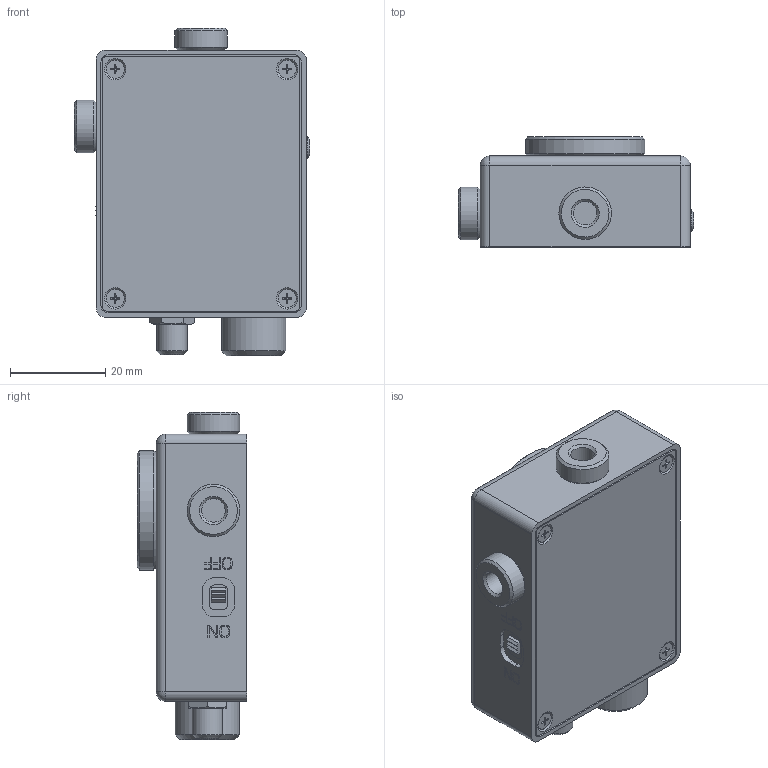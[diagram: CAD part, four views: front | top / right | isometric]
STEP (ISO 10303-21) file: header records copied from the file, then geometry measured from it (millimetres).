
FILE_DESCRIPTION(/* description */ (''),/* implementation_level */ '2;1');
FILE_NAME(/* name */ 'Y:\IvDoronin\Фотоприемники\- Модели -\1. Фотоприемники в фотодиодном режиме\OD2.0001-01 МС Фотоприемник_Shrinkwrap OD-03B.stp',/* time_stamp */ '2019-08-05T10:53:22+03:00',/* author */ ('svlad'),/* organization */ (''),/* preprocessor_version */ 'ST-DEVELOPER v17',/* originating_system */ 'Autodesk Inventor 2019',/* authorisation */ '');
FILE_SCHEMA (('AUTOMOTIVE_DESIGN { 1 0 10303 214 3 1 1 }'));
Products named in the file (1): OD2.0001-01 МС Фотоприемник_
Shrinkwrap OD-03B
Bounding box: 49.24 x 23 x 68.54 mm (x, y, z)
Volume: 49181 mm3; surface area: 10984.6 mm2
Topology: 1 solids, 1 shells, 1295 faces, 3572 edges, 2384 vertices
Faces by surface type: plane 737, bspline 389, cylinder 95, cone 52, torus 18, sphere 4
Full cylindrical faces by diameter (mm): 3 x1, 3.8 x4, 4.5 x1, 4.55 x1, 4.75 x1, 4.917 x2, 5 x2, 6.4 x2, 7 x1, 10.2 x1, 11 x2, 12 x1, 12.5 x1, 12.918 x1, 13.5 x1, 25 x1
Entity records: 49442 total; most frequent: CARTESIAN_POINT 17595, ORIENTED_EDGE 7144, DIRECTION 4778, EDGE_CURVE 3572, VERTEX_POINT 2384, LINE 2274, VECTOR 2274, EDGE_LOOP 1460
